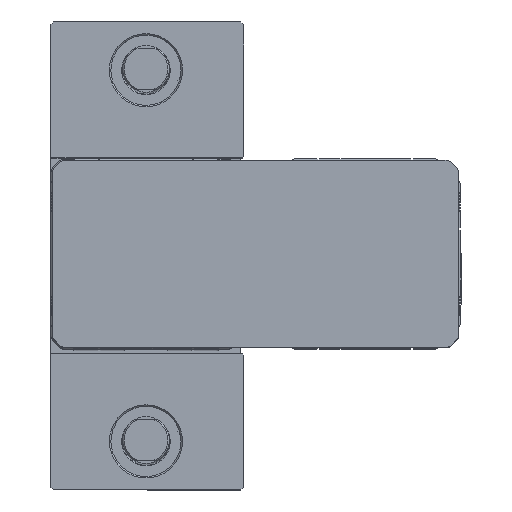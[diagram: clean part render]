
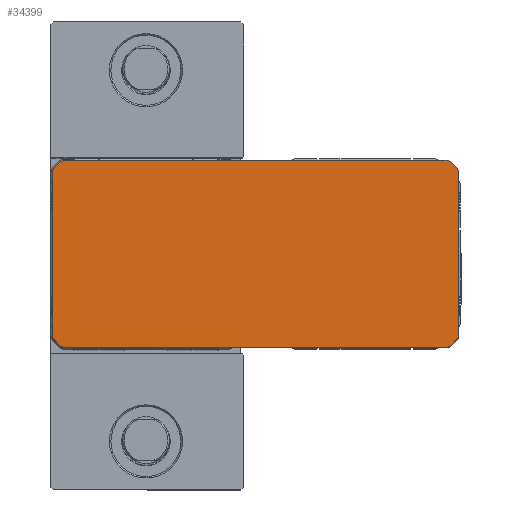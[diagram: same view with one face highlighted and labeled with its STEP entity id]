
A CAD part, top view. The second image highlights one B-rep face of the part: STEP entity #34399.
In plain terms, the highlighted planar face has unit normal (0, 0, 1).
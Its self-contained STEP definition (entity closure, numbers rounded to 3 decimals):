
#552 = EDGE_CURVE ( 'NONE', #33672, #17262, #34309, .T. ) ;
#560 = VECTOR ( 'NONE', #25869, 1000. ) ;
#1653 = LINE ( 'NONE', #4893, #560 ) ;
#2038 = EDGE_CURVE ( 'NONE', #28261, #16803, #15472, .T. ) ;
#2343 = CARTESIAN_POINT ( 'NONE',  ( 103., 32., 402.5 ) ) ;
#2701 = DIRECTION ( 'NONE',  ( 0., 0., 1. ) ) ;
#2762 = LINE ( 'NONE', #8350, #12054 ) ;
#2823 = VERTEX_POINT ( 'NONE', #17320 ) ;
#2969 = ORIENTED_EDGE ( 'NONE', *, *, #10926, .T. ) ;
#3334 = ORIENTED_EDGE ( 'NONE', *, *, #19105, .T. ) ;
#4303 = CIRCLE ( 'NONE', #25016, 1.5 ) ;
#4709 = CARTESIAN_POINT ( 'NONE',  ( -28., -30.5, 402.5 ) ) ;
#4893 = CARTESIAN_POINT ( 'NONE',  ( 106.561, 29.061, 402.5 ) ) ;
#5458 = CIRCLE ( 'NONE', #14554, 1.5 ) ;
#5549 = CIRCLE ( 'NONE', #37247, 1.5 ) ;
#5790 = AXIS2_PLACEMENT_3D ( 'NONE', #17131, #41629, #20665 ) ;
#6200 = ORIENTED_EDGE ( 'NONE', *, *, #34768, .T. ) ;
#6260 = AXIS2_PLACEMENT_3D ( 'NONE', #32879, #11872, #36428 ) ;
#6305 = VECTOR ( 'NONE', #22185, 1000. ) ;
#6447 = VECTOR ( 'NONE', #31657, 1000. ) ;
#6516 = CARTESIAN_POINT ( 'NONE',  ( -31.561, 29.061, 402.5 ) ) ;
#6892 = CARTESIAN_POINT ( 'NONE',  ( -30.5, -28., 402.5 ) ) ;
#7304 = VERTEX_POINT ( 'NONE', #22048 ) ;
#7412 = DIRECTION ( 'NONE',  ( 0., 0., 1. ) ) ;
#7663 = ORIENTED_EDGE ( 'NONE', *, *, #15258, .T. ) ;
#8220 = DIRECTION ( 'NONE',  ( 1., 0., 0. ) ) ;
#8309 = CARTESIAN_POINT ( 'NONE',  ( -32., 28., 402.5 ) ) ;
#8350 = CARTESIAN_POINT ( 'NONE',  ( 107., -28., 402.5 ) ) ;
#8926 = VERTEX_POINT ( 'NONE', #39520 ) ;
#9766 = ORIENTED_EDGE ( 'NONE', *, *, #21177, .T. ) ;
#9800 = EDGE_CURVE ( 'NONE', #2823, #28076, #5549, .T. ) ;
#10380 = DIRECTION ( 'NONE',  ( 1., 0., 0. ) ) ;
#10865 = VERTEX_POINT ( 'NONE', #28949 ) ;
#10926 = EDGE_CURVE ( 'NONE', #33759, #2823, #42171, .T. ) ;
#11241 = ORIENTED_EDGE ( 'NONE', *, *, #39201, .T. ) ;
#11872 = DIRECTION ( 'NONE',  ( 0., 0., 1. ) ) ;
#12054 = VECTOR ( 'NONE', #25960, 1000. ) ;
#12518 = FACE_OUTER_BOUND ( 'NONE', #26204, .T. ) ;
#14173 = CARTESIAN_POINT ( 'NONE',  ( 104.061, -31.561, 402.5 ) ) ;
#14210 = DIRECTION ( 'NONE',  ( -1., 0., 0. ) ) ;
#14554 = AXIS2_PLACEMENT_3D ( 'NONE', #23630, #2701, #27200 ) ;
#15005 = ORIENTED_EDGE ( 'NONE', *, *, #33630, .T. ) ;
#15046 = CARTESIAN_POINT ( 'NONE',  ( 107., 28., 402.5 ) ) ;
#15258 = EDGE_CURVE ( 'NONE', #17262, #10865, #4303, .T. ) ;
#15289 = CARTESIAN_POINT ( 'NONE',  ( -30.5, -28., 402.5 ) ) ;
#15452 = PLANE ( 'NONE',  #20565 ) ;
#15472 = CIRCLE ( 'NONE', #6260, 1.5 ) ;
#15880 = VERTEX_POINT ( 'NONE', #27669 ) ;
#16336 = AXIS2_PLACEMENT_3D ( 'NONE', #28385, #7412, #31923 ) ;
#16803 = VERTEX_POINT ( 'NONE', #2343 ) ;
#17131 = CARTESIAN_POINT ( 'NONE',  ( 105.5, 28., 402.5 ) ) ;
#17262 = VERTEX_POINT ( 'NONE', #25993 ) ;
#17320 = CARTESIAN_POINT ( 'NONE',  ( -32., -28., 402.5 ) ) ;
#17851 = VERTEX_POINT ( 'NONE', #6516 ) ;
#18355 = VERTEX_POINT ( 'NONE', #44946 ) ;
#18720 = DIRECTION ( 'NONE',  ( 0., 0., 1. ) ) ;
#18976 = DIRECTION ( 'NONE',  ( 0., 0., 1. ) ) ;
#19105 = EDGE_CURVE ( 'NONE', #16803, #15880, #33623, .T. ) ;
#19696 = VECTOR ( 'NONE', #27345, 1000. ) ;
#20565 = AXIS2_PLACEMENT_3D ( 'NONE', #15289, #18976, #43493 ) ;
#20665 = DIRECTION ( 'NONE',  ( 1., 0., 0. ) ) ;
#20677 = CARTESIAN_POINT ( 'NONE',  ( 103., -30.5, 402.5 ) ) ;
#20827 = AXIS2_PLACEMENT_3D ( 'NONE', #4709, #29219, #8220 ) ;
#20943 = EDGE_CURVE ( 'NONE', #8926, #35422, #2762, .T. ) ;
#21177 = EDGE_CURVE ( 'NONE', #28076, #32871, #38363, .T. ) ;
#21641 = CARTESIAN_POINT ( 'NONE',  ( -28., -32., 402.5 ) ) ;
#21863 = ORIENTED_EDGE ( 'NONE', *, *, #26295, .T. ) ;
#22048 = CARTESIAN_POINT ( 'NONE',  ( -29.061, 31.561, 402.5 ) ) ;
#22059 = ORIENTED_EDGE ( 'NONE', *, *, #45434, .T. ) ;
#22185 = DIRECTION ( 'NONE',  ( 1., 0., 0. ) ) ;
#22509 = DIRECTION ( 'NONE',  ( 0., -1., 0. ) ) ;
#22782 = ORIENTED_EDGE ( 'NONE', *, *, #20943, .T. ) ;
#23237 = CIRCLE ( 'NONE', #39845, 1.5 ) ;
#23566 = CIRCLE ( 'NONE', #5790, 1.5 ) ;
#23630 = CARTESIAN_POINT ( 'NONE',  ( 105.5, -28., 402.5 ) ) ;
#23771 = CARTESIAN_POINT ( 'NONE',  ( -31.561, -29.061, 402.5 ) ) ;
#24151 = DIRECTION ( 'NONE',  ( 1., 0., 0. ) ) ;
#25016 = AXIS2_PLACEMENT_3D ( 'NONE', #20677, #45202, #24151 ) ;
#25064 = LINE ( 'NONE', #14173, #6447 ) ;
#25463 = ORIENTED_EDGE ( 'NONE', *, *, #9800, .T. ) ;
#25869 = DIRECTION ( 'NONE',  ( -0.707, 0.707, 0. ) ) ;
#25960 = DIRECTION ( 'NONE',  ( 0., 1., 0. ) ) ;
#25993 = CARTESIAN_POINT ( 'NONE',  ( 103., -32., 402.5 ) ) ;
#26204 = EDGE_LOOP ( 'NONE', ( #25463, #9766, #15005, #34647, #7663, #6200, #22059, #22782, #44826, #44356, #27508, #3334, #11241, #21863, #43195, #2969 ) ) ;
#26295 = EDGE_CURVE ( 'NONE', #7304, #17851, #44353, .T. ) ;
#27200 = DIRECTION ( 'NONE',  ( 1., 0., 0. ) ) ;
#27345 = DIRECTION ( 'NONE',  ( 0.707, -0.707, 0. ) ) ;
#27508 = ORIENTED_EDGE ( 'NONE', *, *, #2038, .T. ) ;
#27669 = CARTESIAN_POINT ( 'NONE',  ( -28., 32., 402.5 ) ) ;
#27850 = VERTEX_POINT ( 'NONE', #41161 ) ;
#28076 = VERTEX_POINT ( 'NONE', #35669 ) ;
#28261 = VERTEX_POINT ( 'NONE', #29630 ) ;
#28385 = CARTESIAN_POINT ( 'NONE',  ( -28., 30.5, 402.5 ) ) ;
#28949 = CARTESIAN_POINT ( 'NONE',  ( 104.061, -31.561, 402.5 ) ) ;
#29219 = DIRECTION ( 'NONE',  ( 0., 0., 1. ) ) ;
#29548 = CARTESIAN_POINT ( 'NONE',  ( -32., 28., 402.5 ) ) ;
#29630 = CARTESIAN_POINT ( 'NONE',  ( 104.061, 31.561, 402.5 ) ) ;
#29836 = CIRCLE ( 'NONE', #16336, 1.5 ) ;
#30109 = CIRCLE ( 'NONE', #20827, 1.5 ) ;
#31258 = CARTESIAN_POINT ( 'NONE',  ( -29.061, -31.561, 402.5 ) ) ;
#31394 = DIRECTION ( 'NONE',  ( 0., 0., 1. ) ) ;
#31491 = DIRECTION ( 'NONE',  ( -0.707, -0.707, 0. ) ) ;
#31638 = EDGE_CURVE ( 'NONE', #35422, #27850, #23566, .T. ) ;
#31657 = DIRECTION ( 'NONE',  ( 0.707, 0.707, 0. ) ) ;
#31760 = VECTOR ( 'NONE', #22509, 1000. ) ;
#31923 = DIRECTION ( 'NONE',  ( 1., 0., 0. ) ) ;
#32871 = VERTEX_POINT ( 'NONE', #31258 ) ;
#32879 = CARTESIAN_POINT ( 'NONE',  ( 103., 30.5, 402.5 ) ) ;
#33623 = LINE ( 'NONE', #38754, #42902 ) ;
#33630 = EDGE_CURVE ( 'NONE', #32871, #33672, #30109, .T. ) ;
#33672 = VERTEX_POINT ( 'NONE', #21641 ) ;
#33759 = VERTEX_POINT ( 'NONE', #8309 ) ;
#34309 = LINE ( 'NONE', #43179, #6305 ) ;
#34399 = ADVANCED_FACE ( 'NONE', ( #12518 ), #15452, .T. ) ;
#34647 = ORIENTED_EDGE ( 'NONE', *, *, #552, .T. ) ;
#34768 = EDGE_CURVE ( 'NONE', #10865, #18355, #25064, .T. ) ;
#35045 = VECTOR ( 'NONE', #31491, 1000. ) ;
#35422 = VERTEX_POINT ( 'NONE', #15046 ) ;
#35669 = CARTESIAN_POINT ( 'NONE',  ( -31.561, -29.061, 402.5 ) ) ;
#36428 = DIRECTION ( 'NONE',  ( 1., 0., 0. ) ) ;
#37247 = AXIS2_PLACEMENT_3D ( 'NONE', #6892, #31394, #10380 ) ;
#38363 = LINE ( 'NONE', #23771, #19696 ) ;
#38754 = CARTESIAN_POINT ( 'NONE',  ( 103., 32., 402.5 ) ) ;
#39201 = EDGE_CURVE ( 'NONE', #15880, #7304, #29836, .T. ) ;
#39360 = EDGE_CURVE ( 'NONE', #17851, #33759, #23237, .T. ) ;
#39520 = CARTESIAN_POINT ( 'NONE',  ( 107., -28., 402.5 ) ) ;
#39722 = CARTESIAN_POINT ( 'NONE',  ( -30.5, 28., 402.5 ) ) ;
#39845 = AXIS2_PLACEMENT_3D ( 'NONE', #39722, #18720, #43246 ) ;
#41161 = CARTESIAN_POINT ( 'NONE',  ( 106.561, 29.061, 402.5 ) ) ;
#41629 = DIRECTION ( 'NONE',  ( 0., 0., 1. ) ) ;
#41685 = EDGE_CURVE ( 'NONE', #27850, #28261, #1653, .T. ) ;
#42171 = LINE ( 'NONE', #29548, #31760 ) ;
#42902 = VECTOR ( 'NONE', #14210, 1000. ) ;
#43179 = CARTESIAN_POINT ( 'NONE',  ( -28., -32., 402.5 ) ) ;
#43195 = ORIENTED_EDGE ( 'NONE', *, *, #39360, .T. ) ;
#43246 = DIRECTION ( 'NONE',  ( 1., 0., 0. ) ) ;
#43493 = DIRECTION ( 'NONE',  ( 1., 0., 0. ) ) ;
#44353 = LINE ( 'NONE', #45465, #35045 ) ;
#44356 = ORIENTED_EDGE ( 'NONE', *, *, #41685, .T. ) ;
#44826 = ORIENTED_EDGE ( 'NONE', *, *, #31638, .T. ) ;
#44946 = CARTESIAN_POINT ( 'NONE',  ( 106.561, -29.061, 402.5 ) ) ;
#45202 = DIRECTION ( 'NONE',  ( 0., 0., 1. ) ) ;
#45434 = EDGE_CURVE ( 'NONE', #18355, #8926, #5458, .T. ) ;
#45465 = CARTESIAN_POINT ( 'NONE',  ( -29.061, 31.561, 402.5 ) ) ;
